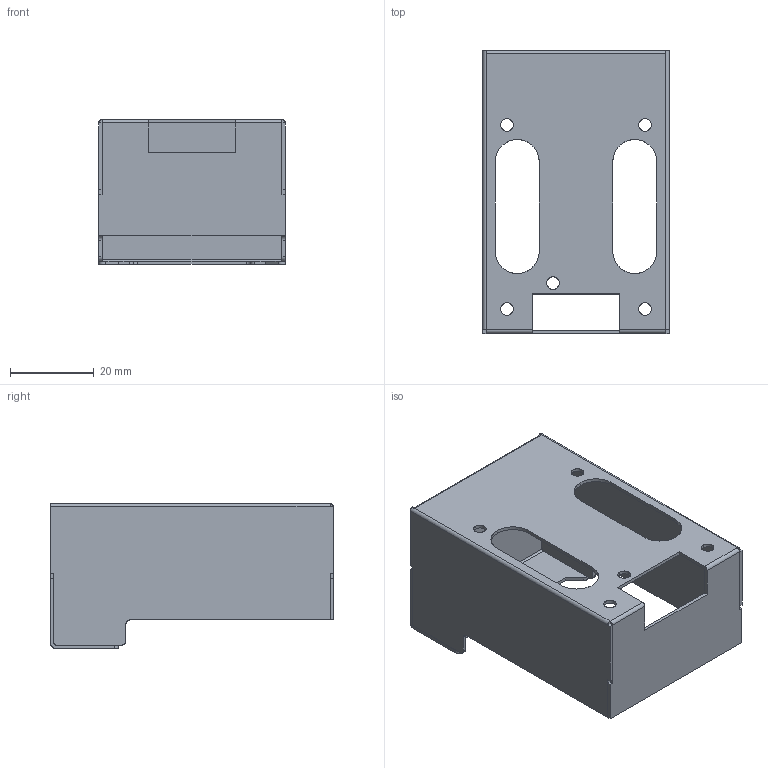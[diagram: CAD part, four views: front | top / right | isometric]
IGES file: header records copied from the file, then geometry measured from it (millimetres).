
Start section: SolidWorks IGES file using analytic representation for surfaces
Bounding box: 44.6 x 67.61 x 34.6 mm (x, y, z)
Surface area: 18292 mm2 (no closed solid volume)
Topology: 0 solids, 0 shells, 99 faces, 959 edges, 959 vertices
Faces by surface type: bspline 64, revolution 35
